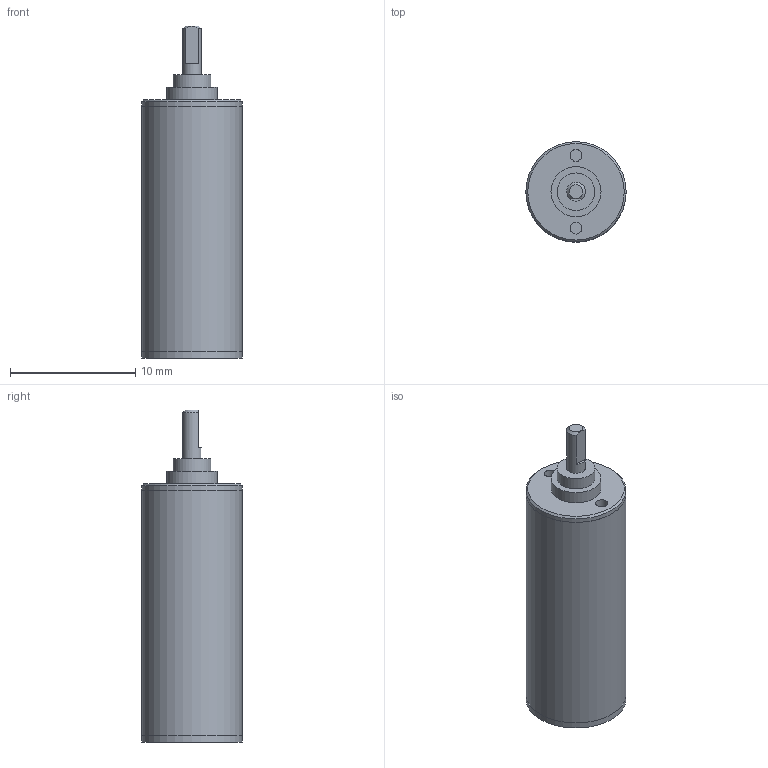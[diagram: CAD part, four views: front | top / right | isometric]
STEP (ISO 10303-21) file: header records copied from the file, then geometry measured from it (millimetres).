
FILE_DESCRIPTION(/* description */ (''),/* implementation_level */ '2;1');
FILE_NAME(/* name */ '08-2_7.stp',/* time_stamp */ '2016-08-23T14:05:57+02:00',/* author */ ('DR. FRITZ FAULHABER GmbH & Co. KG'),/* organization */ ('DR. FRITZ FAULHABER GmbH & Co. KG'),/* preprocessor_version */ 'ST-DEVELOPER v16',/* originating_system */ 'SIEMENS PLM Software NX 10.0',/* authorisation */ '');
FILE_SCHEMA (('AUTOMOTIVE_DESIGN { 1 0 10303 214 3 1 1 1 }'));
Length unit declared in the file: millimetre
Products named in the file (1): H00000393_A
Bounding box: 8 x 8 x 26.5 mm (x, y, z)
Volume: 990.4 mm3; surface area: 725.6 mm2
Topology: 1 solids, 1 shells, 33 faces, 56 edges, 37 vertices
Faces by surface type: plane 16, cylinder 14, cone 3
Full cylindrical faces by diameter (mm): 0.95 x2, 1.5 x1, 2.13 x1, 2.53 x1, 3 x1, 4 x1, 4.959 x1, 6 x1, 7.99 x2, 8 x3
Entity records: 709 total; most frequent: DIRECTION 133, CARTESIAN_POINT 115, ORIENTED_EDGE 72, AXIS2_PLACEMENT_3D 65, EDGE_LOOP 61, FACE_BOUND 54, EDGE_CURVE 36, ADVANCED_FACE 33
